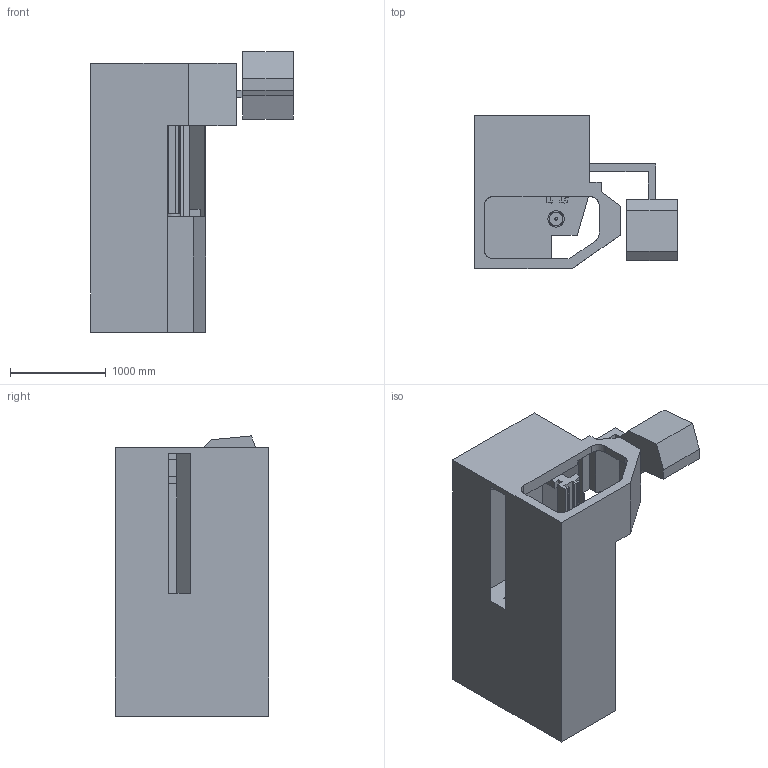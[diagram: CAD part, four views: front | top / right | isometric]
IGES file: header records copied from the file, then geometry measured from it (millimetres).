
Start section: SolidWorks IGES file using analytic representation for surfaces
Global section: file name: C:\Documents and Settings\PHILIPPE\Mes documents\DAO-FAO\esprit\Machines\Tour euroturn gris 2\Fichiers-sw2006\Bati-euroturn-gris-2.IGS; native system: SolidWorks 2006 by SolidWorks Corporation; preprocessor: SolidWorks 2006 by SolidWorks Corporation; author: PHILIPPE; date: 070519.122758; units: millimetre
Bounding box: 2115 x 1600 x 2920 mm (x, y, z)
Surface area: 29337349 mm2 (no closed solid volume)
Topology: 0 solids, 0 shells, 111 faces, 1008 edges, 1008 vertices
Faces by surface type: bspline 100, revolution 11
